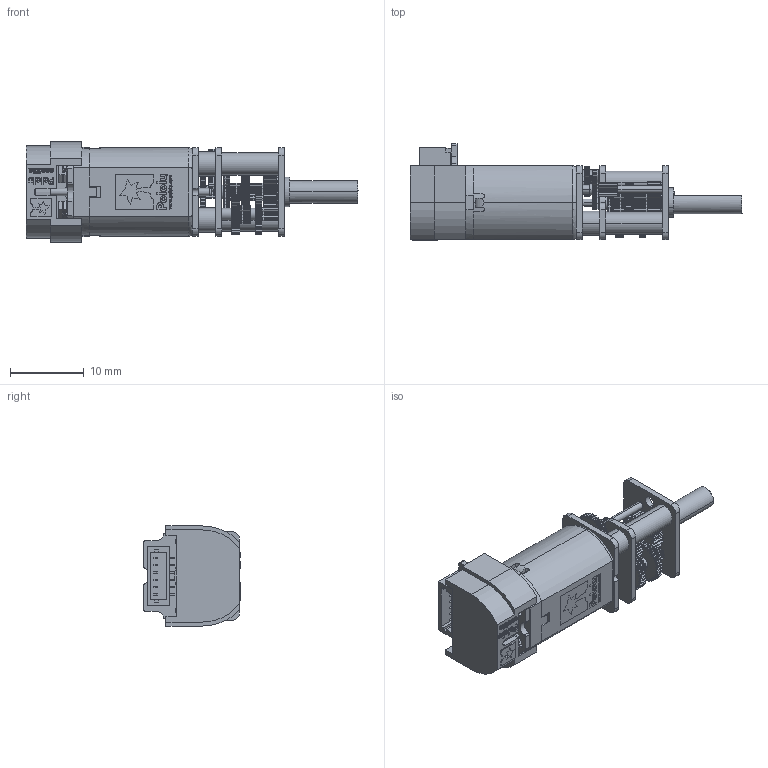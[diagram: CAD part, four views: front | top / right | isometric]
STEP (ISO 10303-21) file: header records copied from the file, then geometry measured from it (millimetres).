
FILE_DESCRIPTION (( 'STEP AP214' ), '1' );
FILE_NAME ('mmgm-1000-enc03c-cas02.STEP', '2024-05-02T00:49:16', ( '' ), ( '' ), 'SwSTEP 2.0', 'SolidWorks 2023', '' );
FILE_SCHEMA (( 'AUTOMOTIVE_DESIGN' ));
Length unit declared in the file: inch
Products named in the file (1): mmgm-1000-enc03c-cas02
Bounding box: 45.1 x 13.1 x 13.6 mm (x, y, z)
Volume: 2829.3 mm3; surface area: 3621.6 mm2
Topology: 1 solids, 3 shells, 3534 faces, 10435 edges, 6986 vertices
Faces by surface type: cylinder 1774, plane 1273, bspline 474, torus 7, cone 6
Entity records: 189338 total; most frequent: CARTESIAN_POINT 60649, ORIENTED_EDGE 20870, DIRECTION 12054, EDGE_CURVE 10435, VERTEX_POINT 6986, B_SPLINE_CURVE_WITH_KNOTS 5915, AXIS2_PLACEMENT_3D 4503, EDGE_LOOP 3683
